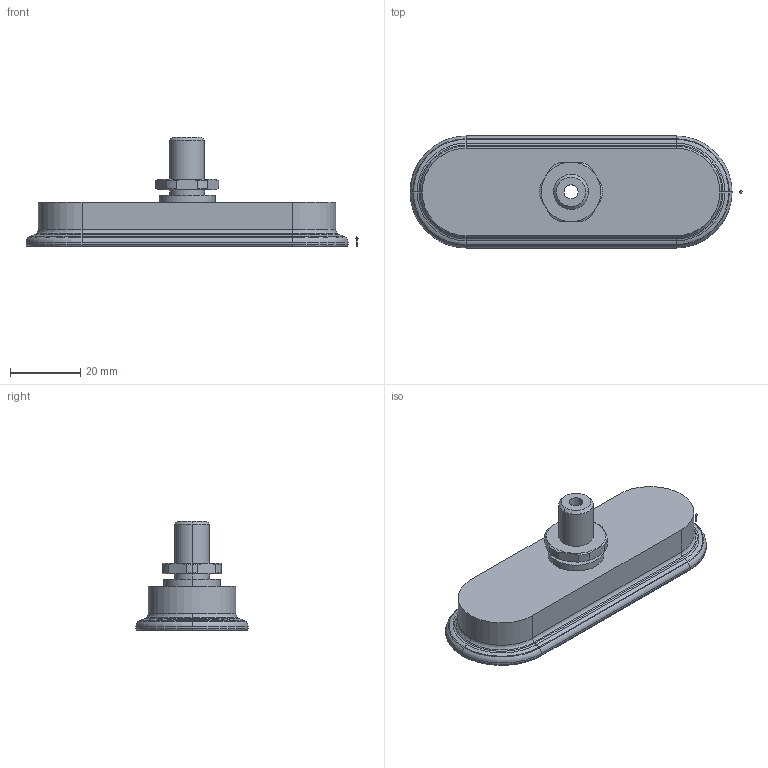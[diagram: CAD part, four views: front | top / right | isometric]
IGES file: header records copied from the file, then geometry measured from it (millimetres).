
Start section: 3D InterOp IGES (v. 2018 1.0.2), Spatial Corp. Copyright (c) 1999-2017.
Global section: file name: schmalz_10_01_05_00572_dz7fcj3mtx4n84zt8ir7hiljb.igs; native system: Spatial Corp.; preprocessor: 3D InterOp ACIS/IGES; author: TraceParts; organization: TraceParts S.A.; date: 20181030.022612; units: millimetre
Bounding box: 94.84 x 32 x 31.2 mm (x, y, z)
Surface area: 9242.4 mm2 (no closed solid volume)
Topology: 0 solids, 0 shells, 128 faces, 570 edges, 568 vertices
Faces by surface type: revolution 92, extrusion 36
